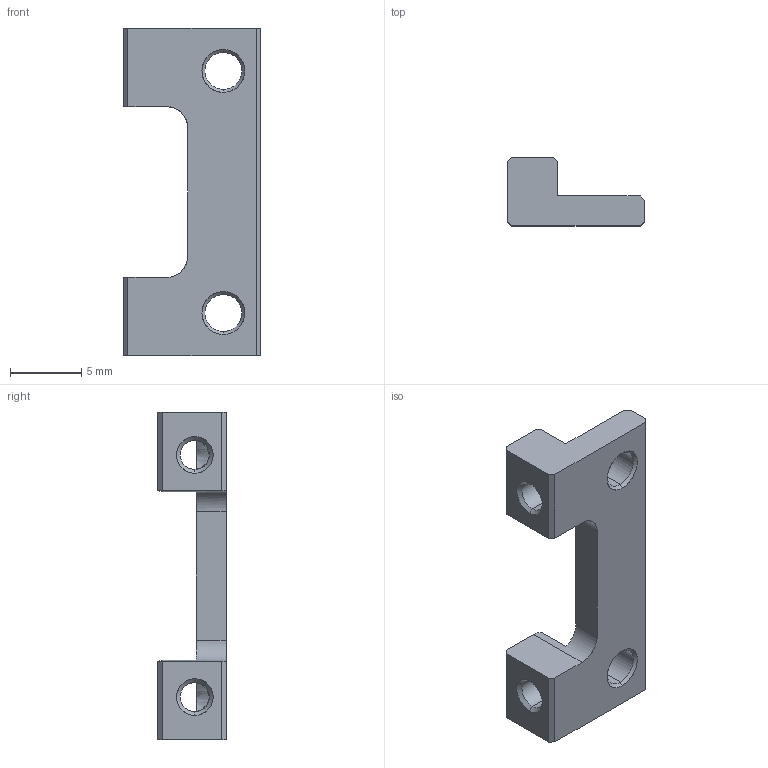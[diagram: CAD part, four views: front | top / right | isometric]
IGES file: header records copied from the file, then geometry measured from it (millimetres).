
Global section: file name: C:\Users\Knabe\Documents\Classes\8 Semester 8\DARwIn\Deliverables\DARwIn OP\DARwIn OP Part Files\CAD 2D\2D IGS\3_FR07-X101.igs; native system: NX V7.0; preprocessor: SIEMENS PLM Software NX 7.0; date: 20110525.171608; units: millimetre
Bounding box: 9.6 x 4.8 x 23 mm (x, y, z)
Surface area: 618.9 mm2 (no closed solid volume)
Topology: 0 solids, 0 shells, 42 faces, 284 edges, 284 vertices
Faces by surface type: bspline 42
